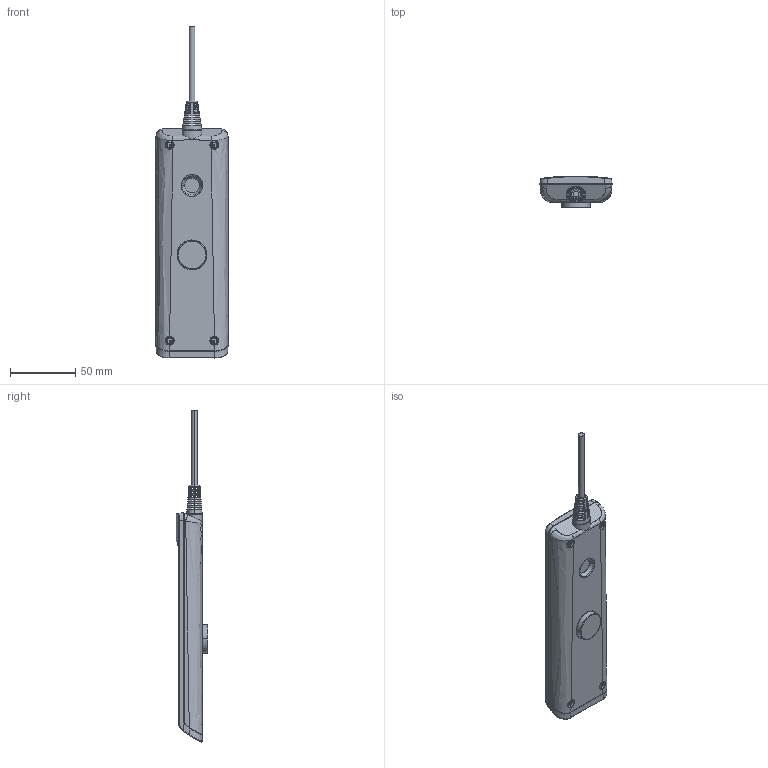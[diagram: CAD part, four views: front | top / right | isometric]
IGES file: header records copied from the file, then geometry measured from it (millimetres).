
Start section: SolidWorks IGES file using analytic representation for surfaces
Global section: file name: C:\Users\USER\Desktop\hs16-230920_asm.IGS; native system: SolidWorks 2023; preprocessor: SolidWorks 2023; author: USER; date: 250508.122908; units: millimetre
Bounding box: 55 x 24.11 x 253.49 mm (x, y, z)
Surface area: 36427.5 mm2 (no closed solid volume)
Topology: 0 solids, 0 shells, 787 faces, 9402 edges, 9379 vertices
Faces by surface type: bspline 503, revolution 284
